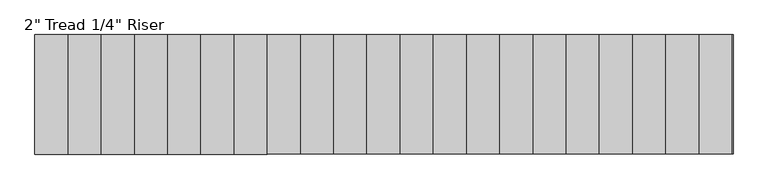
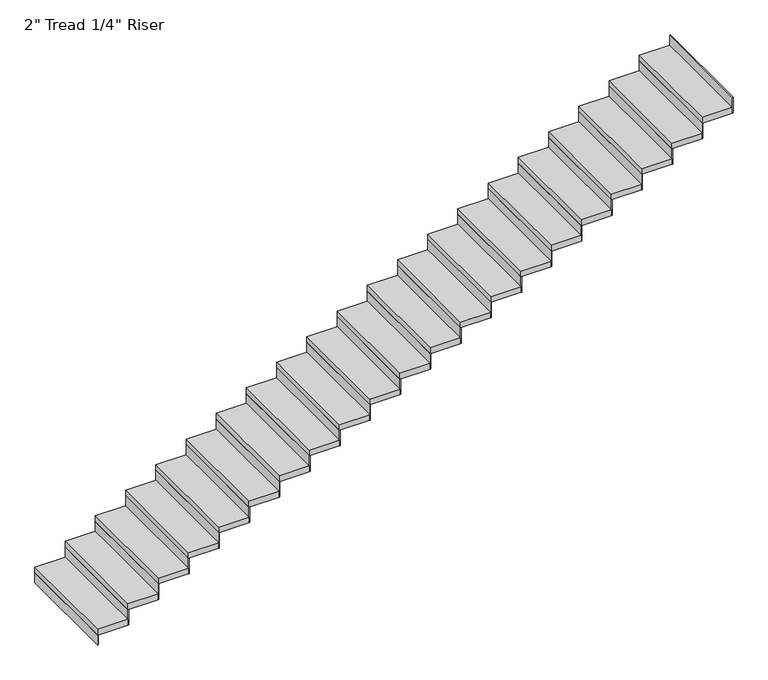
"""IFC4 building model written with IfcOpenShell, lengths in millimetres: stair flight geometry."""

from ifc_helpers import new_model, si_unit, frame, origin, origin_with_axes, place, context, project, spatial, polyline, outline, extrude, source, transform, mapped, element, save


def stair_flight_e65b083a(model_context):
    return source(origin(), model_context, "Body", "SweptSolid", [
        extrude(outline(polyline([(35788.4072927, -70024.4426165), (35782.0572927, -70024.4426165), (35782.0572927, -69110.0426165), (35788.4072927, -69110.0426165), (35788.4072927, -70024.4426165)])), origin_with_axes(), (0.0, 0.0, 1.0), 87.7454545),
        extrude(outline(polyline([(36036.0572927, -69110.0426165), (36036.0572927, -70024.4426165), (35782.0572927, -70024.4426165), (35782.0572927, -69110.0426165), (36036.0572927, -69110.0426165)])), frame((0.0, 0.0, 87.7454545), z_axis=(0.0, 0.0, 1.0), x_axis=(1.0, 0.0, 0.0)), (0.0, 0.0, 1.0), 50.8),
        extrude(outline(polyline([(36042.4072927, -70024.4426165), (36036.0572927, -70024.4426165), (36036.0572927, -69110.0426165), (36042.4072927, -69110.0426165), (36042.4072927, -70024.4426165)])), frame((0.0, 0.0, 87.7454545), z_axis=(0.0, 0.0, 1.0), x_axis=(1.0, 0.0, 0.0)), (0.0, 0.0, 1.0), 138.5454545),
        extrude(outline(polyline([(36290.0572927, -69110.0426165), (36290.0572927, -70024.4426165), (36036.0572927, -70024.4426165), (36036.0572927, -69110.0426165), (36290.0572927, -69110.0426165)])), frame((0.0, 0.0, 226.2909091), z_axis=(0.0, 0.0, 1.0), x_axis=(1.0, 0.0, 0.0)), (0.0, 0.0, 1.0), 50.8),
        extrude(outline(polyline([(36296.4072927, -70024.4426165), (36290.0572927, -70024.4426165), (36290.0572927, -69110.0426165), (36296.4072927, -69110.0426165), (36296.4072927, -70024.4426165)])), frame((0.0, 0.0, 226.2909091), z_axis=(0.0, 0.0, 1.0), x_axis=(1.0, 0.0, 0.0)), (0.0, 0.0, 1.0), 138.5454545),
        extrude(outline(polyline([(36544.0572927, -69110.0426165), (36544.0572927, -70024.4426165), (36290.0572927, -70024.4426165), (36290.0572927, -69110.0426165), (36544.0572927, -69110.0426165)])), frame((0.0, 0.0, 364.8363636), z_axis=(0.0, 0.0, 1.0), x_axis=(1.0, 0.0, 0.0)), (0.0, 0.0, 1.0), 50.8),
        extrude(outline(polyline([(36550.4072927, -70024.4426165), (36544.0572927, -70024.4426165), (36544.0572927, -69110.0426165), (36550.4072927, -69110.0426165), (36550.4072927, -70024.4426165)])), frame((0.0, 0.0, 364.8363636), z_axis=(0.0, 0.0, 1.0), x_axis=(1.0, 0.0, 0.0)), (0.0, 0.0, 1.0), 138.5454545),
        extrude(outline(polyline([(36798.0572927, -69110.0426165), (36798.0572927, -70024.4426165), (36544.0572927, -70024.4426165), (36544.0572927, -69110.0426165), (36798.0572927, -69110.0426165)])), frame((0.0, 0.0, 503.3818182), z_axis=(0.0, 0.0, 1.0), x_axis=(1.0, 0.0, 0.0)), (0.0, 0.0, 1.0), 50.8),
        extrude(outline(polyline([(36804.4072927, -70024.4426165), (36798.0572927, -70024.4426165), (36798.0572927, -69110.0426165), (36804.4072927, -69110.0426165), (36804.4072927, -70024.4426165)])), frame((0.0, 0.0, 503.3818182), z_axis=(0.0, 0.0, 1.0), x_axis=(1.0, 0.0, 0.0)), (0.0, 0.0, 1.0), 138.5454545),
        extrude(outline(polyline([(37052.0572927, -69110.0426165), (37052.0572927, -70024.4426165), (36798.0572927, -70024.4426165), (36798.0572927, -69110.0426165), (37052.0572927, -69110.0426165)])), frame((0.0, 0.0, 641.9272727), z_axis=(0.0, 0.0, 1.0), x_axis=(1.0, 0.0, 0.0)), (0.0, 0.0, 1.0), 50.8),
        extrude(outline(polyline([(37058.4072927, -70024.4426165), (37052.0572927, -70024.4426165), (37052.0572927, -69110.0426165), (37058.4072927, -69110.0426165), (37058.4072927, -70024.4426165)])), frame((0.0, 0.0, 641.9272727), z_axis=(0.0, 0.0, 1.0), x_axis=(1.0, 0.0, 0.0)), (0.0, 0.0, 1.0), 138.5454545),
        extrude(outline(polyline([(37306.0572927, -69110.0426165), (37306.0572927, -70024.4426165), (37052.0572927, -70024.4426165), (37052.0572927, -69110.0426165), (37306.0572927, -69110.0426165)])), frame((0.0, 0.0, 780.4727273), z_axis=(0.0, 0.0, 1.0), x_axis=(1.0, 0.0, 0.0)), (0.0, 0.0, 1.0), 50.8),
        extrude(outline(polyline([(37312.4072927, -70024.4426165), (37306.0572927, -70024.4426165), (37306.0572927, -69110.0426165), (37312.4072927, -69110.0426165), (37312.4072927, -70024.4426165)])), frame((0.0, 0.0, 780.4727273), z_axis=(0.0, 0.0, 1.0), x_axis=(1.0, 0.0, 0.0)), (0.0, 0.0, 1.0), 138.5454545),
        extrude(outline(polyline([(37560.0572927, -69110.0426165), (37560.0572927, -70024.4426165), (37306.0572927, -70024.4426165), (37306.0572927, -69110.0426165), (37560.0572927, -69110.0426165)])), frame((0.0, 0.0, 919.0181818), z_axis=(0.0, 0.0, 1.0), x_axis=(1.0, 0.0, 0.0)), (0.0, 0.0, 1.0), 50.8),
        extrude(outline(polyline([(37566.4072927, -70024.4426165), (37560.0572927, -70024.4426165), (37560.0572927, -69110.0426165), (37566.4072927, -69110.0426165), (37566.4072927, -70024.4426165)])), frame((0.0, 0.0, 919.0181818), z_axis=(0.0, 0.0, 1.0), x_axis=(1.0, 0.0, 0.0)), (0.0, 0.0, 1.0), 138.5454545),
        extrude(outline(polyline([(37814.0572927, -69110.0426165), (37814.0572927, -70024.4426165), (37560.0572927, -70024.4426165), (37560.0572927, -69110.0426165), (37814.0572927, -69110.0426165)])), frame((0.0, 0.0, 1057.5636364), z_axis=(0.0, 0.0, 1.0), x_axis=(1.0, 0.0, 0.0)), (0.0, 0.0, 1.0), 50.8),
        extrude(outline(polyline([(37820.4072927, -70024.4426165), (37814.0572927, -70024.4426165), (37814.0572927, -69110.0426165), (37820.4072927, -69110.0426165), (37820.4072927, -70024.4426165)])), frame((0.0, 0.0, 1057.5636364), z_axis=(0.0, 0.0, 1.0), x_axis=(1.0, 0.0, 0.0)), (0.0, 0.0, 1.0), 138.5454545),
        extrude(outline(polyline([(38068.0572927, -69110.0426165), (38068.0572927, -70024.4426165), (37814.0572927, -70024.4426165), (37814.0572927, -69110.0426165), (38068.0572927, -69110.0426165)])), frame((0.0, 0.0, 1196.1090909), z_axis=(0.0, 0.0, 1.0), x_axis=(1.0, 0.0, 0.0)), (0.0, 0.0, 1.0), 50.8),
        extrude(outline(polyline([(38074.4072927, -70024.4426165), (38068.0572927, -70024.4426165), (38068.0572927, -69110.0426165), (38074.4072927, -69110.0426165), (38074.4072927, -70024.4426165)])), frame((0.0, 0.0, 1196.1090909), z_axis=(0.0, 0.0, 1.0), x_axis=(1.0, 0.0, 0.0)), (0.0, 0.0, 1.0), 138.5454545),
        extrude(outline(polyline([(38322.0572927, -69110.0426165), (38322.0572927, -70024.4426165), (38068.0572927, -70024.4426165), (38068.0572927, -69110.0426165), (38322.0572927, -69110.0426165)])), frame((0.0, 0.0, 1334.6545455), z_axis=(0.0, 0.0, 1.0), x_axis=(1.0, 0.0, 0.0)), (0.0, 0.0, 1.0), 50.8),
        extrude(outline(polyline([(38328.4072927, -70024.4426165), (38322.0572927, -70024.4426165), (38322.0572927, -69110.0426165), (38328.4072927, -69110.0426165), (38328.4072927, -70024.4426165)])), frame((0.0, 0.0, 1334.6545455), z_axis=(0.0, 0.0, 1.0), x_axis=(1.0, 0.0, 0.0)), (0.0, 0.0, 1.0), 138.5454545),
        extrude(outline(polyline([(38576.0572927, -69110.0426165), (38576.0572927, -70024.4426165), (38322.0572927, -70024.4426165), (38322.0572927, -69110.0426165), (38576.0572927, -69110.0426165)])), frame((0.0, 0.0, 1473.2), z_axis=(0.0, 0.0, 1.0), x_axis=(1.0, 0.0, 0.0)), (0.0, 0.0, 1.0), 50.8),
        extrude(outline(polyline([(38582.4072927, -70024.4426165), (38576.0572927, -70024.4426165), (38576.0572927, -69110.0426165), (38582.4072927, -69110.0426165), (38582.4072927, -70024.4426165)])), frame((0.0, 0.0, 1473.2), z_axis=(0.0, 0.0, 1.0), x_axis=(1.0, 0.0, 0.0)), (0.0, 0.0, 1.0), 138.5454545),
        extrude(outline(polyline([(38830.0572927, -69110.0426165), (38830.0572927, -70024.4426165), (38576.0572927, -70024.4426165), (38576.0572927, -69110.0426165), (38830.0572927, -69110.0426165)])), frame((0.0, 0.0, 1611.7454545), z_axis=(0.0, 0.0, 1.0), x_axis=(1.0, 0.0, 0.0)), (0.0, 0.0, 1.0), 50.8),
        extrude(outline(polyline([(38836.4072927, -70024.4426165), (38830.0572927, -70024.4426165), (38830.0572927, -69110.0426165), (38836.4072927, -69110.0426165), (38836.4072927, -70024.4426165)])), frame((0.0, 0.0, 1611.7454545), z_axis=(0.0, 0.0, 1.0), x_axis=(1.0, 0.0, 0.0)), (0.0, 0.0, 1.0), 138.5454545),
        extrude(outline(polyline([(39084.0572927, -69110.0426165), (39084.0572927, -70024.4426165), (38830.0572927, -70024.4426165), (38830.0572927, -69110.0426165), (39084.0572927, -69110.0426165)])), frame((0.0, 0.0, 1750.2909091), z_axis=(0.0, 0.0, 1.0), x_axis=(1.0, 0.0, 0.0)), (0.0, 0.0, 1.0), 50.8),
        extrude(outline(polyline([(39090.4072927, -70024.4426165), (39084.0572927, -70024.4426165), (39084.0572927, -69110.0426165), (39090.4072927, -69110.0426165), (39090.4072927, -70024.4426165)])), frame((0.0, 0.0, 1750.2909091), z_axis=(0.0, 0.0, 1.0), x_axis=(1.0, 0.0, 0.0)), (0.0, 0.0, 1.0), 138.5454545),
        extrude(outline(polyline([(39338.0572927, -69110.0426165), (39338.0572927, -70024.4426165), (39084.0572927, -70024.4426165), (39084.0572927, -69110.0426165), (39338.0572927, -69110.0426165)])), frame((0.0, 0.0, 1888.8363636), z_axis=(0.0, 0.0, 1.0), x_axis=(1.0, 0.0, 0.0)), (0.0, 0.0, 1.0), 50.8),
        extrude(outline(polyline([(39344.4072927, -70024.4426165), (39338.0572927, -70024.4426165), (39338.0572927, -69110.0426165), (39344.4072927, -69110.0426165), (39344.4072927, -70024.4426165)])), frame((0.0, 0.0, 1888.8363636), z_axis=(0.0, 0.0, 1.0), x_axis=(1.0, 0.0, 0.0)), (0.0, 0.0, 1.0), 138.5454545),
        extrude(outline(polyline([(39592.0572927, -69110.0426165), (39592.0572927, -70024.4426165), (39338.0572927, -70024.4426165), (39338.0572927, -69110.0426165), (39592.0572927, -69110.0426165)])), frame((0.0, 0.0, 2027.3818182), z_axis=(0.0, 0.0, 1.0), x_axis=(1.0, 0.0, 0.0)), (0.0, 0.0, 1.0), 50.8),
        extrude(outline(polyline([(39598.4072927, -70024.4426165), (39592.0572927, -70024.4426165), (39592.0572927, -69110.0426165), (39598.4072927, -69110.0426165), (39598.4072927, -70024.4426165)])), frame((0.0, 0.0, 2027.3818182), z_axis=(0.0, 0.0, 1.0), x_axis=(1.0, 0.0, 0.0)), (0.0, 0.0, 1.0), 138.5454545),
        extrude(outline(polyline([(39846.0572927, -69110.0426165), (39846.0572927, -70024.4426165), (39592.0572927, -70024.4426165), (39592.0572927, -69110.0426165), (39846.0572927, -69110.0426165)])), frame((0.0, 0.0, 2165.9272727), z_axis=(0.0, 0.0, 1.0), x_axis=(1.0, 0.0, 0.0)), (0.0, 0.0, 1.0), 50.8),
        extrude(outline(polyline([(39852.4072927, -70024.4426165), (39846.0572927, -70024.4426165), (39846.0572927, -69110.0426165), (39852.4072927, -69110.0426165), (39852.4072927, -70024.4426165)])), frame((0.0, 0.0, 2165.9272727), z_axis=(0.0, 0.0, 1.0), x_axis=(1.0, 0.0, 0.0)), (0.0, 0.0, 1.0), 138.5454545),
        extrude(outline(polyline([(40100.0572927, -69110.0426165), (40100.0572927, -70024.4426165), (39846.0572927, -70024.4426165), (39846.0572927, -69110.0426165), (40100.0572927, -69110.0426165)])), frame((0.0, 0.0, 2304.4727273), z_axis=(0.0, 0.0, 1.0), x_axis=(1.0, 0.0, 0.0)), (0.0, 0.0, 1.0), 50.8),
        extrude(outline(polyline([(40106.4072927, -70024.4426165), (40100.0572927, -70024.4426165), (40100.0572927, -69110.0426165), (40106.4072927, -69110.0426165), (40106.4072927, -70024.4426165)])), frame((0.0, 0.0, 2304.4727273), z_axis=(0.0, 0.0, 1.0), x_axis=(1.0, 0.0, 0.0)), (0.0, 0.0, 1.0), 138.5454545),
        extrude(outline(polyline([(40354.0572927, -69110.0426165), (40354.0572927, -70024.4426165), (40100.0572927, -70024.4426165), (40100.0572927, -69110.0426165), (40354.0572927, -69110.0426165)])), frame((0.0, 0.0, 2443.0181818), z_axis=(0.0, 0.0, 1.0), x_axis=(1.0, 0.0, 0.0)), (0.0, 0.0, 1.0), 50.8),
        extrude(outline(polyline([(40360.4072927, -70024.4426165), (40354.0572927, -70024.4426165), (40354.0572927, -69110.0426165), (40360.4072927, -69110.0426165), (40360.4072927, -70024.4426165)])), frame((0.0, 0.0, 2443.0181818), z_axis=(0.0, 0.0, 1.0), x_axis=(1.0, 0.0, 0.0)), (0.0, 0.0, 1.0), 138.5454545),
        extrude(outline(polyline([(40608.0572927, -69110.0426165), (40608.0572927, -70024.4426165), (40354.0572927, -70024.4426165), (40354.0572927, -69110.0426165), (40608.0572927, -69110.0426165)])), frame((0.0, 0.0, 2581.5636364), z_axis=(0.0, 0.0, 1.0), x_axis=(1.0, 0.0, 0.0)), (0.0, 0.0, 1.0), 50.8),
        extrude(outline(polyline([(40614.4072927, -70024.4426165), (40608.0572927, -70024.4426165), (40608.0572927, -69110.0426165), (40614.4072927, -69110.0426165), (40614.4072927, -70024.4426165)])), frame((0.0, 0.0, 2581.5636364), z_axis=(0.0, 0.0, 1.0), x_axis=(1.0, 0.0, 0.0)), (0.0, 0.0, 1.0), 138.5454545),
        extrude(outline(polyline([(40862.0572927, -69110.0426165), (40862.0572927, -70024.4426165), (40608.0572927, -70024.4426165), (40608.0572927, -69110.0426165), (40862.0572927, -69110.0426165)])), frame((0.0, 0.0, 2720.1090909), z_axis=(0.0, 0.0, 1.0), x_axis=(1.0, 0.0, 0.0)), (0.0, 0.0, 1.0), 50.8),
        extrude(outline(polyline([(40868.4072927, -70024.4426165), (40862.0572927, -70024.4426165), (40862.0572927, -69110.0426165), (40868.4072927, -69110.0426165), (40868.4072927, -70024.4426165)])), frame((0.0, 0.0, 2720.1090909), z_axis=(0.0, 0.0, 1.0), x_axis=(1.0, 0.0, 0.0)), (0.0, 0.0, 1.0), 138.5454545),
        extrude(outline(polyline([(41122.4072927, -70024.4426165), (41116.0572927, -70024.4426165), (41116.0572927, -69110.0426165), (41122.4072927, -69110.0426165), (41122.4072927, -70024.4426165)])), frame((0.0, 0.0, 2858.6545455), z_axis=(0.0, 0.0, 1.0), x_axis=(1.0, 0.0, 0.0)), (0.0, 0.0, 1.0), 138.5454545),
        extrude(outline(polyline([(41116.0572927, -69110.0426165), (41116.0572927, -70024.4426165), (40862.0572927, -70024.4426165), (40862.0572927, -69110.0426165), (41116.0572927, -69110.0426165)])), frame((0.0, 0.0, 2858.6545455), z_axis=(0.0, 0.0, 1.0), x_axis=(1.0, 0.0, 0.0)), (0.0, 0.0, 1.0), 50.8),
    ])


if __name__ == "__main__":
    model = new_model("IFC4")
    model_context = context("Model", 3, world=origin())
    ifc_project = project(units=[si_unit("LENGTHUNIT", "METRE", prefix="MILLI")], contexts=[model_context])
    site = spatial("IfcSite", under=ifc_project)
    building = spatial("IfcBuilding", under=site)
    placement = place(None, origin())
    stair_flight_shape = stair_flight_e65b083a(model_context)
    element("IfcStairFlight", 1, ObjectType="2\" Tread 1/4\" Riser", at=placement, inside=building, context=model_context, shape_type="MappedRepresentation", body=[
        mapped(stair_flight_shape, transform((0.0, 0.0, 0.0), x_axis=(1.0, 0.0, 0.0), y_axis=(0.0, 1.0, 0.0), z_axis=(0.0, 0.0, 1.0))),
    ])
    save(model, "model.ifc")
